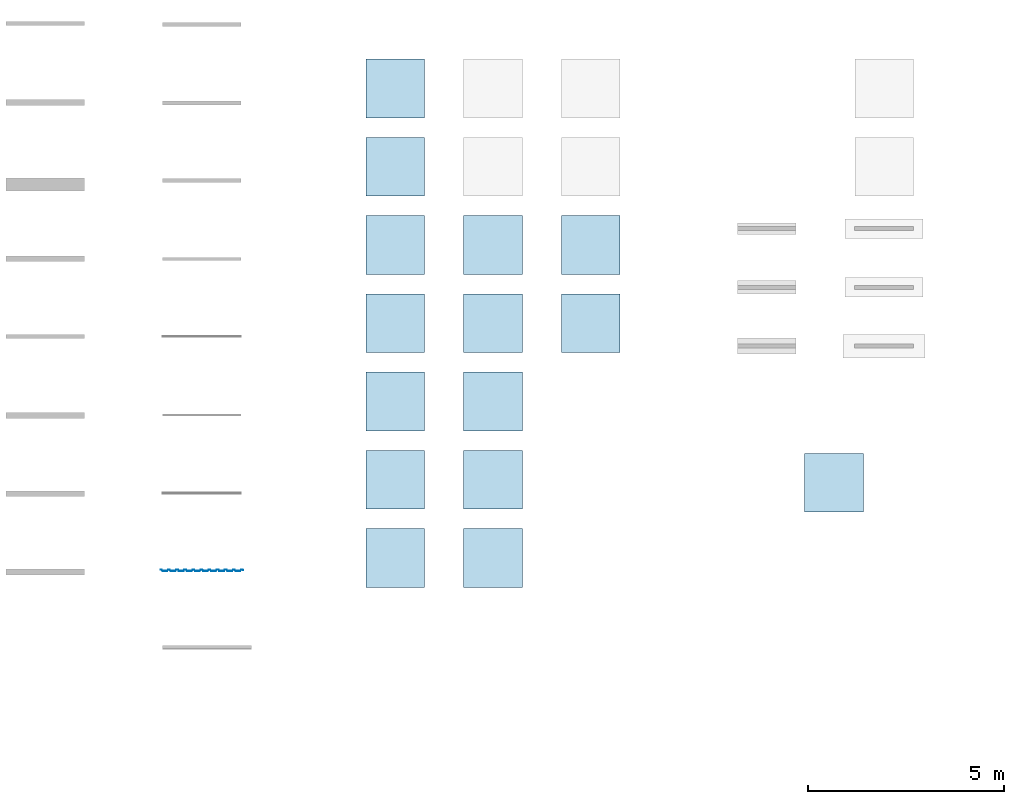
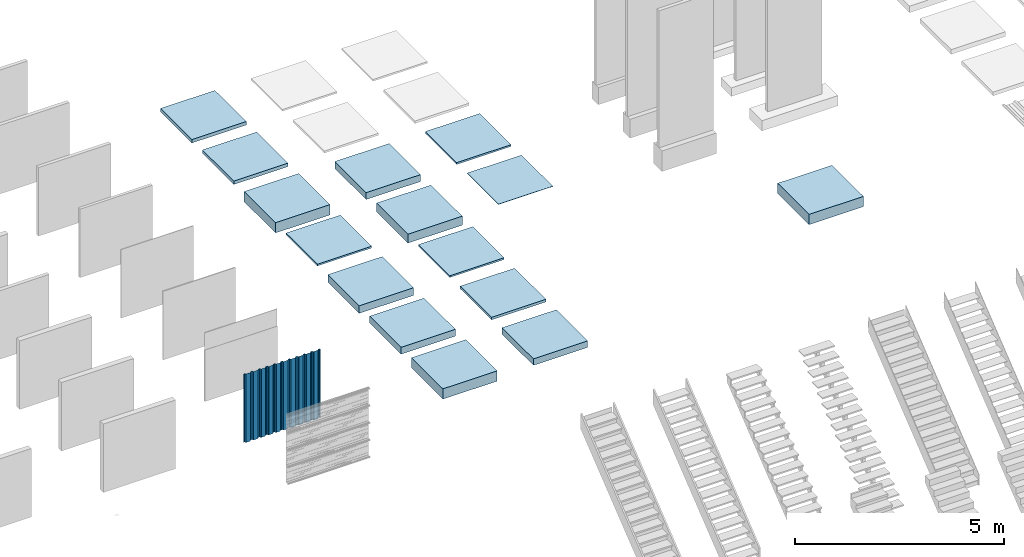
# One storey, part 3 of 13: 15 slabs, 2 plates, 1 element without a shape of its own.
"""IFC2X3 building model written with IfcOpenShell, lengths in millimetres."""

from ifc_helpers import new_model, entity, si_unit, converted_unit, derived_unit, direction, frame, frame_2d, origin, origin_2d_with_axis, place, context, subcontext, project, spatial, polyline, circle_curve, parameter, trimmed, segment, composite_curve, rectangle, outline, extrude, source, transform, mapped, material, layer, layer_set, layer_usage, type_object, type_shapes, element, aggregate, save


model = new_model("IFC2X3")

# Units and contexts
model_context = context("Model", 3, precision=0.01, world=origin(), true_north=direction((6.12303176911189e-17, 1.0)))
body_context = subcontext(model_context, "Body", "Model", "MODEL_VIEW")
ifc_project = project(units=[si_unit("LENGTHUNIT", "METRE", prefix="MILLI"), si_unit("AREAUNIT", "SQUARE_METRE"), si_unit("VOLUMEUNIT", "CUBIC_METRE"), converted_unit("PLANEANGLEUNIT", "DEGREE", entity("IfcRatioMeasure", 0.0174532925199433), si_unit("PLANEANGLEUNIT", "RADIAN"), dimensions=[0, 0, 0, 0, 0, 0, 0]), si_unit("MASSUNIT", "GRAM", prefix="KILO"), si_unit("TIMEUNIT", "SECOND"), si_unit("FREQUENCYUNIT", "HERTZ"), si_unit("THERMODYNAMICTEMPERATUREUNIT", "KELVIN"), derived_unit("THERMALTRANSMITTANCEUNIT", [(si_unit("MASSUNIT", "GRAM", prefix="KILO"), 1), (si_unit("THERMODYNAMICTEMPERATUREUNIT", "KELVIN"), -1), (si_unit("TIMEUNIT", "SECOND"), -3)]), derived_unit("VOLUMETRICFLOWRATEUNIT", [(si_unit("LENGTHUNIT", "METRE"), 3), (si_unit("TIMEUNIT", "SECOND"), -1)]), si_unit("ELECTRICCURRENTUNIT", "AMPERE"), si_unit("ELECTRICVOLTAGEUNIT", "VOLT"), si_unit("POWERUNIT", "WATT")], contexts=[model_context])

# Site, building, storey
site_placement = place(None, origin())
site = spatial("IfcSite", under=ifc_project, at=site_placement, Name="Surface", CompositionType="ELEMENT")
building_placement = place(site_placement, origin())
building = spatial("IfcBuilding", under=site, at=building_placement, CompositionType="ELEMENT")
storey_placement = place(building_placement, origin())
storey = spatial("IfcBuildingStorey", under=building, at=storey_placement, Name="00_begane grond", CompositionType="ELEMENT", Elevation=0.0)

# Curtain wall, plates
curtain_wall_type = type_object("IfcCurtainWallType", PredefinedType="NOTDEFINED")
curtain_wall_placement = place(storey_placement, origin())
curtain_wall = element("IfcCurtainWall", 1, at=curtain_wall_placement, inside=storey, type_object=curtain_wall_type)
plate_type = type_object("IfcPlateType", Name="SAB35_1035", PredefinedType="NOTDEFINED")
shared_shape = source(origin(), body_context, "Body", "SweptSolid", [
    extrude(outline(composite_curve([segment(polyline([(-305.801843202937, -425.10492461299), (-270.924006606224, -425.10492461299)]), True, "CONTINUOUS"), segment(trimmed(circle_curve(frame_2d((-270.924006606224, -419.083497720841), x_axis=(0.565528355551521, 0.824728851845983)), 6.02142689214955), [parameter(214.438989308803)], [parameter(269.999999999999)], True, "PARAMETER"), True, "CONTINUOUS"), segment(polyline([(-265.957962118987, -422.488785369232), (-200.634048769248, -327.224745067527)]), True, "CONTINUOUS"), segment(trimmed(circle_curve(frame_2d((-205.600093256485, -323.819457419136), x_axis=(0.565528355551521, 0.824728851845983)), 6.02142689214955), [parameter(269.999999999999)], [parameter(325.561010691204)], True, "PARAMETER"), True, "CONTINUOUS"), segment(polyline([(-199.98321531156, -321.649603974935), (-213.425506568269, -286.852917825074)]), True, "CONTINUOUS"), segment(trimmed(circle_curve(frame_2d((-209.680921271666, -285.406348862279), x_axis=(0.565528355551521, 0.824728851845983)), 4.01428459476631), [parameter(90.0000000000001)], [parameter(145.561010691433)], True, "PARAMETER"), False, "CONTINUOUS"), segment(polyline([(-212.991617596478, -283.136157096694), (-193.279573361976, -254.389425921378)]), True, "CONTINUOUS"), segment(trimmed(circle_curve(frame_2d((-189.968877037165, -256.659617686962), x_axis=(0.565528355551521, 0.824728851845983)), 4.01428459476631), [parameter(34.4389893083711)], [parameter(90.0000000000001)], True, "PARAMETER"), False, "CONTINUOUS"), segment(polyline([(-189.968877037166, -252.645333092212), (-152.666000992, -252.6453330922)]), True, "CONTINUOUS"), segment(trimmed(circle_curve(frame_2d((-152.666000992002, -246.62390620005), x_axis=(0.565528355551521, 0.824728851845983)), 6.02142689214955), [parameter(214.438989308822)], [parameter(270.0)], True, "PARAMETER"), True, "CONTINUOUS"), segment(polyline([(-147.699956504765, -250.029193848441), (-83.1516248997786, -155.896210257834)]), True, "CONTINUOUS"), segment(trimmed(circle_curve(frame_2d((-88.1176693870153, -152.490922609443), x_axis=(0.565528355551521, 0.824728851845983)), 6.02142689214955), [parameter(270.0)], [parameter(325.5610106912)], True, "PARAMETER"), True, "CONTINUOUS"), segment(polyline([(-82.5007914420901, -150.321069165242), (-95.9430826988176, -115.524383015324)]), True, "CONTINUOUS"), segment(trimmed(circle_curve(frame_2d((-92.1984974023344, -114.077814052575), x_axis=(0.565528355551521, 0.824728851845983)), 4.01428459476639), [parameter(90.0000000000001)], [parameter(145.561010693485)], True, "PARAMETER"), False, "CONTINUOUS"), segment(polyline([(-95.5091937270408, -111.807622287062), (-75.7971494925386, -83.0608911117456)]), True, "CONTINUOUS"), segment(trimmed(circle_curve(frame_2d((-72.4864531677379, -85.3310828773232), x_axis=(0.565528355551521, 0.824728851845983)), 4.01428459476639), [parameter(34.4389893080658)], [parameter(89.9999999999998)], True, "PARAMETER"), False, "CONTINUOUS"), segment(polyline([(-72.4864531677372, -81.316798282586), (-35.1835771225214, -81.3167982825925)]), True, "CONTINUOUS"), segment(trimmed(circle_curve(frame_2d((-35.1835771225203, -75.2953713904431), x_axis=(0.565528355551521, 0.824728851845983)), 6.02142689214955), [parameter(214.438989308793)], [parameter(269.999999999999)], True, "PARAMETER"), True, "CONTINUOUS"), segment(polyline([(-30.2175326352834, -78.7006590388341), (34.3307989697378, 15.4323245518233)]), True, "CONTINUOUS"), segment(trimmed(circle_curve(frame_2d((29.3647544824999, 18.837612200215), x_axis=(0.565528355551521, 0.824728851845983)), 6.02142689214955), [parameter(269.999999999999)], [parameter(325.561010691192)], True, "PARAMETER"), True, "CONTINUOUS"), segment(polyline([(34.9816324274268, 21.0074656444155), (21.5393411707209, 55.8041517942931)]), True, "CONTINUOUS"), segment(trimmed(circle_curve(frame_2d((25.2839264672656, 57.2507207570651), x_axis=(0.565528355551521, 0.824728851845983)), 4.01428459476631), [parameter(90.0000000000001)], [parameter(145.561010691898)], True, "PARAMETER"), False, "CONTINUOUS"), segment(polyline([(21.973230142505, 59.5209125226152), (41.6852743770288, 88.2676436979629)]), True, "CONTINUOUS"), segment(trimmed(circle_curve(frame_2d((44.9959707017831, 85.9974519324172), x_axis=(0.565528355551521, 0.824728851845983)), 4.01428459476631), [parameter(34.4389893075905)], [parameter(90.0000000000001)], True, "PARAMETER"), False, "CONTINUOUS"), segment(polyline([(44.995970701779, 90.0117365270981), (82.2988467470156, 90.0117365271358)]), True, "CONTINUOUS"), segment(trimmed(circle_curve(frame_2d((82.2988467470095, 96.0331634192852), x_axis=(0.565528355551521, 0.824728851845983)), 6.02142689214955), [parameter(214.438989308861)], [parameter(270.0)], True, "PARAMETER"), True, "CONTINUOUS"), segment(polyline([(87.2648912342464, 92.6278757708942), (151.81322283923, 186.760859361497)]), True, "CONTINUOUS"), segment(trimmed(circle_curve(frame_2d((146.847178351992, 190.166147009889), x_axis=(0.565528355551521, 0.824728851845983)), 6.02142689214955), [parameter(270.0)], [parameter(325.561010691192)], True, "PARAMETER"), True, "CONTINUOUS"), segment(polyline([(152.464056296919, 192.33600045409), (139.021765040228, 227.13268660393)]), True, "CONTINUOUS"), segment(trimmed(circle_curve(frame_2d((142.766350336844, 228.579255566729), x_axis=(0.565528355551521, 0.824728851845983)), 4.01428459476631), [parameter(90.0000000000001)], [parameter(145.561010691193)], True, "PARAMETER"), False, "CONTINUOUS"), segment(polyline([(139.45565401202, 230.849447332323), (159.167698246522, 259.596178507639)]), True, "CONTINUOUS"), segment(trimmed(circle_curve(frame_2d((162.478394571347, 257.325986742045), x_axis=(0.565528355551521, 0.824728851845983)), 4.01428459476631), [parameter(34.4389893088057)], [parameter(90.0000000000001)], True, "PARAMETER"), False, "CONTINUOUS"), segment(polyline([(162.478394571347, 261.340271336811), (199.781270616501, 261.340271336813)]), True, "CONTINUOUS"), segment(trimmed(circle_curve(frame_2d((199.781270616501, 267.361698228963), x_axis=(0.565528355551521, 0.824728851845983)), 6.02142689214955), [parameter(214.438989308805)], [parameter(269.999999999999)], True, "PARAMETER"), True, "CONTINUOUS"), segment(polyline([(204.747315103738, 263.956410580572), (269.295646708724, 358.089394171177)]), True, "CONTINUOUS"), segment(trimmed(circle_curve(frame_2d((264.329602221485, 361.494681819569), x_axis=(0.565528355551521, 0.824728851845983)), 6.02142689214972), [parameter(269.999999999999)], [parameter(325.561010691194)], True, "PARAMETER"), True, "CONTINUOUS"), segment(polyline([(269.946480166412, 363.66453526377), (256.50418890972, 398.461221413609)]), True, "CONTINUOUS"), segment(trimmed(circle_curve(frame_2d((260.248774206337, 399.907790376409), x_axis=(0.565528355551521, 0.824728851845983)), 4.01428459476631), [parameter(90.0000000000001)], [parameter(145.561010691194)], True, "PARAMETER"), False, "CONTINUOUS"), segment(polyline([(256.938077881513, 402.177982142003), (276.650122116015, 430.92471331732)]), True, "CONTINUOUS"), segment(trimmed(circle_curve(frame_2d((279.960818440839, 428.654521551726), x_axis=(0.565528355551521, 0.824728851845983)), 4.01428459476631), [parameter(34.4389893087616)], [parameter(90.0000000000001)], True, "PARAMETER"), False, "CONTINUOUS"), segment(polyline([(279.960818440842, 432.668806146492), (298.15419015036, 432.668806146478)]), True, "CONTINUOUS"), segment(polyline([(298.15419015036, 432.668806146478), (298.154190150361, 434.67594844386)]), True, "CONTINUOUS"), segment(polyline([(298.154190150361, 434.67594844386), (279.960818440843, 434.675948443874)]), True, "CONTINUOUS"), segment(trimmed(circle_curve(frame_2d((279.960818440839, 428.654521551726), x_axis=(0.565528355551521, 0.824728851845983)), 6.02142689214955), [parameter(34.4389893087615)], [parameter(89.9999999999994)], True, "PARAMETER"), True, "CONTINUOUS"), segment(polyline([(274.994773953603, 432.059809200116), (255.282729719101, 403.3130780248)]), True, "CONTINUOUS"), segment(trimmed(circle_curve(frame_2d((260.248774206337, 399.907790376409), x_axis=(0.565528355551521, 0.824728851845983)), 6.02142689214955), [parameter(89.9999999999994)], [parameter(145.561010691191)], True, "PARAMETER"), True, "CONTINUOUS"), segment(polyline([(254.631896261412, 397.737936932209), (268.074187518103, 362.941250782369)]), True, "CONTINUOUS"), segment(trimmed(circle_curve(frame_2d((264.329602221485, 361.494681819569), x_axis=(0.565528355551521, 0.824728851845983)), 4.01428459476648), [parameter(270.0)], [parameter(325.561010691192)], True, "PARAMETER"), False, "CONTINUOUS"), segment(polyline([(267.640298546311, 359.224490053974), (203.091966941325, 265.091506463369)]), True, "CONTINUOUS"), segment(trimmed(circle_curve(frame_2d((199.781270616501, 267.361698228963), x_axis=(0.565528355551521, 0.824728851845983)), 4.01428459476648), [parameter(214.438989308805)], [parameter(270.0)], True, "PARAMETER"), False, "CONTINUOUS"), segment(polyline([(199.781270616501, 263.347413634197), (162.478394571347, 263.347413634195)]), True, "CONTINUOUS"), segment(trimmed(circle_curve(frame_2d((162.478394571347, 257.325986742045), x_axis=(0.565528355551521, 0.824728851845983)), 6.02142689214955), [parameter(34.4389893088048)], [parameter(89.9999999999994)], True, "PARAMETER"), True, "CONTINUOUS"), segment(polyline([(157.51235008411, 260.731274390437), (137.800305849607, 231.98454321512)]), True, "CONTINUOUS"), segment(trimmed(circle_curve(frame_2d((142.766350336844, 228.579255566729), x_axis=(0.565528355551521, 0.824728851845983)), 6.02142689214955), [parameter(89.9999999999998)], [parameter(145.561010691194)], True, "PARAMETER"), True, "CONTINUOUS"), segment(polyline([(137.149472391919, 226.409402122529), (150.591763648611, 191.61271597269)]), True, "CONTINUOUS"), segment(trimmed(circle_curve(frame_2d((146.847178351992, 190.166147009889), x_axis=(0.565528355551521, 0.824728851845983)), 4.01428459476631), [parameter(270.0)], [parameter(325.561010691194)], True, "PARAMETER"), False, "CONTINUOUS"), segment(polyline([(150.157874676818, 187.895955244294), (85.6095430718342, 93.7629716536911)]), True, "CONTINUOUS"), segment(trimmed(circle_curve(frame_2d((82.2988467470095, 96.0331634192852), x_axis=(0.565528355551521, 0.824728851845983)), 4.01428459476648), [parameter(214.438989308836)], [parameter(270.0)], True, "PARAMETER"), False, "CONTINUOUS"), segment(polyline([(82.2988467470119, 92.0188788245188), (44.9959707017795, 92.018878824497)]), True, "CONTINUOUS"), segment(trimmed(circle_curve(frame_2d((44.9959707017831, 85.9974519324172), x_axis=(0.565528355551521, 0.824728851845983)), 6.02142689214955), [parameter(34.4389893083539)], [parameter(89.9999999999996)], True, "PARAMETER"), True, "CONTINUOUS"), segment(polyline([(40.0299262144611, 89.4027395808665), (20.3178819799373, 60.6560084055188)]), True, "CONTINUOUS"), segment(trimmed(circle_curve(frame_2d((25.2839264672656, 57.2507207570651), x_axis=(0.565528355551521, 0.824728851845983)), 6.02142689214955), [parameter(89.9999999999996)], [parameter(145.561010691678)], True, "PARAMETER"), True, "CONTINUOUS"), segment(polyline([(19.6670485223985, 55.080867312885), (33.1093397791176, 20.284181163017)]), True, "CONTINUOUS"), segment(trimmed(circle_curve(frame_2d((29.3647544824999, 18.837612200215), x_axis=(0.565528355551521, 0.824728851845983)), 4.01428459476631), [parameter(270.0)], [parameter(325.561010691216)], True, "PARAMETER"), False, "CONTINUOUS"), segment(polyline([(32.6754508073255, 16.5674204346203), (-31.8728807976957, -77.5655631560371)]), True, "CONTINUOUS"), segment(trimmed(circle_curve(frame_2d((-35.1835771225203, -75.2953713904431), x_axis=(0.565528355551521, 0.824728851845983)), 4.01428459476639), [parameter(214.438989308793)], [parameter(270.0)], True, "PARAMETER"), False, "CONTINUOUS"), segment(polyline([(-35.183577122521, -79.3096559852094), (-72.4864531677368, -79.3096559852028)]), True, "CONTINUOUS"), segment(trimmed(circle_curve(frame_2d((-72.4864531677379, -85.3310828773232), x_axis=(0.565528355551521, 0.824728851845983)), 6.02142689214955), [parameter(34.4389893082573)], [parameter(89.9999999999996)], True, "PARAMETER"), True, "CONTINUOUS"), segment(polyline([(-77.452497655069, -81.9257952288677), (-97.1645418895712, -110.672526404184)]), True, "CONTINUOUS"), segment(trimmed(circle_curve(frame_2d((-92.1984974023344, -114.077814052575), x_axis=(0.565528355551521, 0.824728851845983)), 6.02142689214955), [parameter(89.9999999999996)], [parameter(145.56101069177)], True, "PARAMETER"), True, "CONTINUOUS"), segment(polyline([(-97.8153753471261, -116.247667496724), (-84.3730840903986, -151.044353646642)]), True, "CONTINUOUS"), segment(trimmed(circle_curve(frame_2d((-88.1176693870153, -152.490922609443), x_axis=(0.565528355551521, 0.824728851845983)), 4.01428459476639), [parameter(270.0)], [parameter(325.5610106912)], True, "PARAMETER"), False, "CONTINUOUS"), segment(polyline([(-84.8069730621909, -154.761114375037), (-149.355304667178, -248.894097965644)]), True, "CONTINUOUS"), segment(trimmed(circle_curve(frame_2d((-152.666000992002, -246.62390620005), x_axis=(0.565528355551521, 0.824728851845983)), 4.01428459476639), [parameter(214.438989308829)], [parameter(270.0)], True, "PARAMETER"), False, "CONTINUOUS"), segment(polyline([(-152.666000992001, -250.638190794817), (-189.968877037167, -250.638190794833)]), True, "CONTINUOUS"), segment(trimmed(circle_curve(frame_2d((-189.968877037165, -256.659617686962), x_axis=(0.565528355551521, 0.824728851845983)), 6.02142689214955), [parameter(34.4389893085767)], [parameter(89.9999999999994)], True, "PARAMETER"), True, "CONTINUOUS"), segment(polyline([(-194.934921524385, -253.254330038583), (-214.646965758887, -282.001061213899)]), True, "CONTINUOUS"), segment(trimmed(circle_curve(frame_2d((-209.680921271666, -285.406348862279), x_axis=(0.565528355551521, 0.824728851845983)), 6.02142689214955), [parameter(89.9999999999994)], [parameter(145.561010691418)], True, "PARAMETER"), True, "CONTINUOUS"), segment(polyline([(-215.297799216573, -287.576202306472), (-201.855507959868, -322.372888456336)]), True, "CONTINUOUS"), segment(trimmed(circle_curve(frame_2d((-205.600093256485, -323.819457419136), x_axis=(0.565528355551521, 0.824728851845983)), 4.01428459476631), [parameter(270.0)], [parameter(325.561010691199)], True, "PARAMETER"), False, "CONTINUOUS"), segment(polyline([(-202.28939693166, -326.08964918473), (-267.613310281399, -421.353689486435)]), True, "CONTINUOUS"), segment(trimmed(circle_curve(frame_2d((-270.924006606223, -419.083497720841), x_axis=(0.565528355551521, 0.824728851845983)), 4.01428459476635), [parameter(214.438989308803)], [parameter(270.0)], True, "PARAMETER"), False, "CONTINUOUS"), segment(polyline([(-270.924006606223, -423.097782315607), (-305.801843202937, -423.097782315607)]), True, "CONTINUOUS"), segment(trimmed(circle_curve(frame_2d((-305.801843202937, -429.119209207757), x_axis=(0.565528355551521, 0.824728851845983)), 6.02142689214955), [parameter(34.4389893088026)], [parameter(89.9999999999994)], True, "PARAMETER"), True, "CONTINUOUS"), segment(polyline([(-310.767887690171, -425.713921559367), (-326.299389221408, -448.364027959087)]), True, "CONTINUOUS"), segment(polyline([(-326.299389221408, -448.364027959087), (-324.644041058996, -449.499123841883)]), True, "CONTINUOUS"), segment(polyline([(-324.644041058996, -449.499123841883), (-309.11253952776, -426.849017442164)]), True, "CONTINUOUS"), segment(trimmed(circle_curve(frame_2d((-305.801843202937, -429.119209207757), x_axis=(0.565528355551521, 0.824728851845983)), 4.01428459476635), [parameter(34.4389893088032)], [parameter(90.0000000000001)], True, "PARAMETER"), False, "CONTINUOUS")], self_intersect=False)), frame((24.9265260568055, 19.4540507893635, 0.0), z_axis=(0.0, 0.0, 1.0), x_axis=(0.565528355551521, -0.824728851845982, 0.0)), (0.0, 0.0, 1.0), 2000.0),
])
type_shapes(plate_type, [shared_shape])
plate_1_placement = place(curtain_wall_placement, frame((12477.5, -15000.0, 0.0)))
plate_1 = element("IfcPlate", 2, at=plate_1_placement, type_object=plate_type, Name="21_CWP_SAB35_1035:SAB35_1035", ObjectType="SAB35_1035", context=body_context, shape_type="MappedRepresentation", body=[
    mapped(shared_shape, transform((0.0, 0.0, 0.0), scale=1.0)),
])
plate_2_placement = place(curtain_wall_placement, frame((13512.5, -15000.0, 0.0)))
plate_2 = element("IfcPlate", 3, at=plate_2_placement, type_object=plate_type, Name="21_CWP_SAB35_1035:SAB35_1035", ObjectType="SAB35_1035", context=body_context, shape_type="MappedRepresentation", body=[
    mapped(shared_shape, transform((0.0, 0.0, 0.0), scale=1.0)),
])
aggregate(curtain_wall, [plate_1, plate_2])

# Slabs
ifc_material_1 = material(Name="Default")
ifc_layer_1 = layer(ifc_material_1, 100.0)
ifc_layer_set_1 = layer_set([ifc_layer_1], Name="Floor:13_FL_generiek_100")
ifc_layer_usage_1 = layer_usage(ifc_layer_set_1, "AXIS3", "POSITIVE", 0.0)
slab_1_placement = place(storey_placement, origin())
element("IfcSlab", 4, at=slab_1_placement, inside=storey, material=ifc_layer_usage_1, Name="Floor:13_FL_generiek_100", ObjectType="Floor:13_FL_generiek_100", PredefinedType="FLOOR", context=body_context, shape_type="SweptSolid", body=[
    extrude(rectangle(XDim=1500.0, YDim=1500.0, at=frame_2d((-1.13686837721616e-13, 0.0), x_axis=(1.0, 0.0))), frame((17943.3473849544, -2665.0, 0.0), z_axis=(0.0, 0.0, -1.0), x_axis=(0.0, 1.0, 0.0)), (0.0, 0.0, 1.0), 100.0),
])
ifc_layer_2 = layer(ifc_material_1, 100.0)
ifc_layer_set_2 = layer_set([ifc_layer_2], Name="Floor:23_FL_generiek_100")
ifc_layer_usage_2 = layer_usage(ifc_layer_set_2, "AXIS3", "POSITIVE", 0.0)
slab_2_placement = place(storey_placement, origin())
element("IfcSlab", 5, at=slab_2_placement, inside=storey, material=ifc_layer_usage_2, Name="Floor:23_FL_generiek_100", ObjectType="Floor:23_FL_generiek_100", PredefinedType="FLOOR", context=body_context, shape_type="SweptSolid", body=[
    extrude(rectangle(XDim=1500.0, YDim=1500.0, at=frame_2d((5.11590769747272e-13, 0.0), x_axis=(1.0, 0.0))), frame((17943.3473849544, -4665.0, 0.0), z_axis=(0.0, 0.0, -1.0), x_axis=(0.0, 1.0, 0.0)), (0.0, 0.0, 1.0), 100.0),
])
ifc_layer_3 = layer(ifc_material_1, 300.0)
ifc_layer_set_3 = layer_set([ifc_layer_3], Name="Floor:23_FL_generiek_300")
ifc_layer_usage_3 = layer_usage(ifc_layer_set_3, "AXIS3", "POSITIVE", 0.0)
slab_3_placement = place(storey_placement, origin())
element("IfcSlab", 6, at=slab_3_placement, inside=storey, material=ifc_layer_usage_3, Name="Floor:23_FL_generiek_300", ObjectType="Floor:23_FL_generiek_300", PredefinedType="FLOOR", context=body_context, shape_type="SweptSolid", body=[
    extrude(rectangle(XDim=1500.0, YDim=1500.0, at=frame_2d((5.11590769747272e-13, 0.0), x_axis=(1.0, 0.0))), frame((17943.3473849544, -6665.0, 0.0), z_axis=(0.0, 0.0, -1.0), x_axis=(0.0, 1.0, 0.0)), (0.0, 0.0, 1.0), 300.0),
])
ifc_material_2 = material(Name="11_werkvloer_stampbeton")
ifc_layer_4 = layer(ifc_material_2, 50.0)
ifc_layer_set_4 = layer_set([ifc_layer_4], Name="Floor:11_FL_werkvloer_stampbeton_50")
ifc_layer_usage_4 = layer_usage(ifc_layer_set_4, "AXIS3", "POSITIVE", 0.0)
slab_4_placement = place(storey_placement, origin())
element("IfcSlab", 7, at=slab_4_placement, inside=storey, material=ifc_layer_usage_4, Name="Floor:11_FL_werkvloer_stampbeton_50", ObjectType="Floor:11_FL_werkvloer_stampbeton_50", PredefinedType="FLOOR", context=body_context, shape_type="SweptSolid", body=[
    extrude(rectangle(XDim=1500.0, YDim=1500.0, at=frame_2d((5.11590769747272e-13, 0.0), x_axis=(1.0, 0.0))), frame((17943.3473849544, -8665.0, 0.0), z_axis=(0.0, 0.0, -1.0), x_axis=(0.0, 1.0, 0.0)), (0.0, 0.0, 1.0), 50.0),
])
ifc_material_3 = material(Name="13_beton_ihwg_C20/25")
ifc_layer_5 = layer(ifc_material_3, 120.0)
ifc_material_4 = material(Name="20_isolatie_EPS")
ifc_layer_6 = layer(ifc_material_4, 100.0)
ifc_material_5 = material(Name="11_bodemafsluiter_folie")
ifc_layer_7 = layer(ifc_material_5, 2.0)
ifc_layer_set_5 = layer_set([ifc_layer_5, ifc_layer_6, ifc_layer_7], Name="Floor:13_FL_ihwg_beton_geïsoleerd_222_120-100-2")
ifc_layer_usage_5 = layer_usage(ifc_layer_set_5, "AXIS3", "POSITIVE", 0.0)
slab_5_placement = place(storey_placement, origin())
element("IfcSlab", 8, at=slab_5_placement, inside=storey, material=ifc_layer_usage_5, Name="Floor:13_FL_ihwg_beton_geïsoleerd_222_120-100-2", ObjectType="Floor:13_FL_ihwg_beton_geïsoleerd_222_120-100-2", PredefinedType="FLOOR", context=body_context, shape_type="SweptSolid", body=[
    extrude(rectangle(XDim=1500.0, YDim=1500.0, at=frame_2d((0.0, -2.1600499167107e-12), x_axis=(1.0, 0.0))), frame((17943.3473849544, -10665.0, 0.0), z_axis=(0.0, 0.0, -1.0), x_axis=(0.0, 1.0, 0.0)), (0.0, 0.0, 1.0), 222.0),
])
ifc_layer_8 = layer(ifc_material_3, 200.0)
ifc_layer_set_6 = layer_set([ifc_layer_8], Name="Floor:23_FL_ihwg_beton_200")
ifc_layer_usage_6 = layer_usage(ifc_layer_set_6, "AXIS3", "POSITIVE", 0.0)
slab_6_placement = place(storey_placement, origin())
element("IfcSlab", 9, at=slab_6_placement, inside=storey, material=ifc_layer_usage_6, Name="Floor:23_FL_ihwg_beton_200", ObjectType="Floor:23_FL_ihwg_beton_200", PredefinedType="FLOOR", context=body_context, shape_type="SweptSolid", body=[
    extrude(rectangle(XDim=1500.0, YDim=1500.0, at=origin_2d_with_axis()), frame((17943.3473849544, -12665.0, 0.0), z_axis=(0.0, 0.0, -1.0), x_axis=(0.0, 1.0, 0.0)), (0.0, 0.0, 1.0), 200.0),
])
ifc_layer_9 = layer(ifc_material_3, 300.0)
ifc_layer_set_7 = layer_set([ifc_layer_9], Name="Floor:23_FL_ihwg_beton_300")
ifc_layer_usage_7 = layer_usage(ifc_layer_set_7, "AXIS3", "POSITIVE", 0.0)
slab_7_placement = place(storey_placement, origin())
element("IfcSlab", 10, at=slab_7_placement, inside=storey, material=ifc_layer_usage_7, Name="Floor:23_FL_ihwg_beton_300", ObjectType="Floor:23_FL_ihwg_beton_300", PredefinedType="FLOOR", context=body_context, shape_type="SweptSolid", body=[
    extrude(rectangle(XDim=1500.0, YDim=1500.0, at=frame_2d((2.1600499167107e-12, 0.0), x_axis=(1.0, 0.0))), frame((17943.3473849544, -14665.0, 0.0), z_axis=(0.0, 0.0, -1.0), x_axis=(0.0, 1.0, 0.0)), (0.0, 0.0, 1.0), 300.0),
])
ifc_material_6 = material(Name="28_beton_prefab_C45_55")
ifc_layer_10 = layer(ifc_material_6, 200.0)
ifc_layer_set_8 = layer_set([ifc_layer_10], Name="Floor:23_FL_kanaalplaat_200")
ifc_layer_usage_8 = layer_usage(ifc_layer_set_8, "AXIS3", "POSITIVE", 0.0)
slab_8_placement = place(storey_placement, origin())
element("IfcSlab", 11, at=slab_8_placement, inside=storey, material=ifc_layer_usage_8, Name="Floor:23_FL_kanaalplaat_200", ObjectType="Floor:23_FL_kanaalplaat_200", PredefinedType="FLOOR", context=body_context, shape_type="SweptSolid", body=[
    extrude(rectangle(XDim=1500.0, YDim=1500.00000000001, at=frame_2d((5.11590769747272e-13, 0.0), x_axis=(1.0, 0.0))), frame((20443.3473849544, -6665.0, 0.0), z_axis=(0.0, 0.0, -1.0), x_axis=(0.0, 1.0, 0.0)), (0.0, 0.0, 1.0), 200.0),
])
ifc_layer_11 = layer(ifc_material_6, 260.0)
ifc_layer_set_9 = layer_set([ifc_layer_11], Name="Floor:23_FL_kanaalplaat_260")
ifc_layer_usage_9 = layer_usage(ifc_layer_set_9, "AXIS3", "POSITIVE", 0.0)
slab_9_placement = place(storey_placement, origin())
element("IfcSlab", 12, at=slab_9_placement, inside=storey, material=ifc_layer_usage_9, Name="Floor:23_FL_kanaalplaat_260", ObjectType="Floor:23_FL_kanaalplaat_260", PredefinedType="FLOOR", context=body_context, shape_type="SweptSolid", body=[
    extrude(rectangle(XDim=1500.0, YDim=1500.00000000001, at=frame_2d((-5.11590769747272e-13, 0.0), x_axis=(1.0, 0.0))), frame((20443.3473849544, -8665.0, 0.0), z_axis=(0.0, 0.0, -1.0), x_axis=(0.0, 1.0, 0.0)), (0.0, 0.0, 1.0), 260.0),
])
ifc_layer_12 = layer(ifc_material_3, 50.0)
ifc_layer_set_10 = layer_set([ifc_layer_12], Name="Floor:23_FL_zwaluwstaartvloer_ihwg_beton_50")
ifc_layer_usage_10 = layer_usage(ifc_layer_set_10, "AXIS3", "POSITIVE", 0.0)
slab_10_placement = place(storey_placement, origin())
element("IfcSlab", 13, at=slab_10_placement, inside=storey, material=ifc_layer_usage_10, Name="Floor:23_FL_zwaluwstaartvloer_ihwg_beton_50", ObjectType="Floor:23_FL_zwaluwstaartvloer_ihwg_beton_50", PredefinedType="FLOOR", context=body_context, shape_type="SweptSolid", body=[
    extrude(rectangle(XDim=1500.0, YDim=1500.0, at=frame_2d((1.08002495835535e-12, 0.0), x_axis=(1.0, 0.0))), frame((20443.3473849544, -10665.0, 0.0), z_axis=(0.0, 0.0, -1.0), x_axis=(0.0, 1.0, 0.0)), (0.0, 0.0, 1.0), 50.0),
])
ifc_layer_13 = layer(ifc_material_3, 75.0)
ifc_layer_set_11 = layer_set([ifc_layer_13], Name="Floor:23_FL_zwaluwstaartvloer_ihwg_beton_75")
ifc_layer_usage_11 = layer_usage(ifc_layer_set_11, "AXIS3", "POSITIVE", 0.0)
slab_11_placement = place(storey_placement, origin())
element("IfcSlab", 14, at=slab_11_placement, inside=storey, material=ifc_layer_usage_11, Name="Floor:23_FL_zwaluwstaartvloer_ihwg_beton_75", ObjectType="Floor:23_FL_zwaluwstaartvloer_ihwg_beton_75", PredefinedType="FLOOR", context=body_context, shape_type="SweptSolid", body=[
    extrude(rectangle(XDim=1500.0, YDim=1500.0, at=origin_2d_with_axis()), frame((20443.3473849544, -12665.0, 0.0), z_axis=(0.0, 0.0, -1.0), x_axis=(0.0, 1.0, 0.0)), (0.0, 0.0, 1.0), 75.0),
])
ifc_material_7 = material(Name="23_beplating_underlayment")
ifc_layer_14 = layer(ifc_material_7, 18.0)
ifc_material_8 = material(Name="23_houten_balklaag_geventileerd")
ifc_layer_15 = layer(ifc_material_8, 171.0)
ifc_layer_set_12 = layer_set([ifc_layer_14, ifc_layer_15], Name="Floor:23_FL_hout_underlayment_189mm_171-18")
ifc_layer_usage_12 = layer_usage(ifc_layer_set_12, "AXIS3", "POSITIVE", 0.0)
slab_12_placement = place(storey_placement, origin())
element("IfcSlab", 15, at=slab_12_placement, inside=storey, material=ifc_layer_usage_12, Name="Floor:23_FL_hout_underlayment_189mm_171-18", ObjectType="Floor:23_FL_hout_underlayment_189mm_171-18", PredefinedType="FLOOR", context=body_context, shape_type="SweptSolid", body=[
    extrude(rectangle(XDim=1500.0, YDim=1500.00000000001, at=origin_2d_with_axis()), frame((20443.3473849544, -14665.0, 0.0), z_axis=(0.0, 0.0, -1.0), x_axis=(0.0, 1.0, 0.0)), (0.0, 0.0, 1.0), 189.0),
])
ifc_material_9 = material(Name="43_vloerafwerking_hout_planken")
ifc_layer_16 = layer(ifc_material_9, 22.0)
ifc_material_10 = material(Name="20_isolatie_steenwol")
ifc_layer_17 = layer(ifc_material_10, 30.0)
ifc_layer_set_13 = layer_set([ifc_layer_16, ifc_layer_17], Name="Floor:43_FL_eiken_planken 150_geluidsisolatie_52_22-30")
ifc_layer_usage_13 = layer_usage(ifc_layer_set_13, "AXIS3", "POSITIVE", 0.0)
slab_13_placement = place(storey_placement, origin())
element("IfcSlab", 16, at=slab_13_placement, inside=storey, material=ifc_layer_usage_13, Name="Floor:43_FL_eiken_planken 150_geluidsisolatie_52_22-30", ObjectType="Floor:43_FL_eiken_planken 150_geluidsisolatie_52_22-30", PredefinedType="FLOOR", context=body_context, shape_type="SweptSolid", body=[
    extrude(rectangle(XDim=1500.0, YDim=1500.00000000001, at=origin_2d_with_axis()), frame((22943.3473849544, -6665.0, 0.0), z_axis=(0.0, 0.0, -1.0), x_axis=(0.0, 1.0, 0.0)), (0.0, 0.0, 1.0), 52.0),
])
ifc_material_11 = material(Name="43_tapijt_rood")
ifc_layer_18 = layer(ifc_material_11, 9.0)
ifc_layer_set_14 = layer_set([ifc_layer_18], Name="Floor:43_FL_tapijt_rood")
ifc_layer_usage_14 = layer_usage(ifc_layer_set_14, "AXIS3", "POSITIVE", 0.0)
slab_14_placement = place(storey_placement, origin())
element("IfcSlab", 17, at=slab_14_placement, inside=storey, material=ifc_layer_usage_14, Name="Floor:43_FL_tapijt_rood", ObjectType="Floor:43_FL_tapijt_rood", PredefinedType="FLOOR", context=body_context, shape_type="SweptSolid", body=[
    extrude(rectangle(XDim=1500.0, YDim=1500.00000000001, at=frame_2d((-5.11590769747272e-13, 0.0), x_axis=(1.0, 0.0))), frame((22943.3473849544, -8665.0, 0.0), z_axis=(0.0, 0.0, -1.0), x_axis=(0.0, 1.0, 0.0)), (0.0, 0.0, 1.0), 9.0),
])
ifc_material_12 = material(Name="90_bouwplaats")
ifc_layer_19 = layer(ifc_material_12, 300.0)
ifc_layer_set_15 = layer_set([ifc_layer_19], Name="Pad:90_SITE_bouwplaats")
ifc_layer_usage_15 = layer_usage(ifc_layer_set_15, "AXIS3", "NEGATIVE", 0.0)
slab_15_placement = place(storey_placement, frame((28413.3473849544, -13495.0, -300.0)))
element("IfcSlab", 18, at=slab_15_placement, inside=storey, material=ifc_layer_usage_15, Name="Pad:90_SITE_bouwplaats", ObjectType="Pad:90_SITE_bouwplaats", PredefinedType="FLOOR", context=body_context, shape_type="SweptSolid", body=[
    extrude(rectangle(XDim=1500.00000000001, YDim=1499.99999999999, at=origin_2d_with_axis()), frame((750.0, 750.0, 300.0), z_axis=(0.0, 0.0, -1.0), x_axis=(-1.0, 0.0, 0.0)), (0.0, 0.0, 1.0), 300.0),
])

save(model, "model.ifc")
